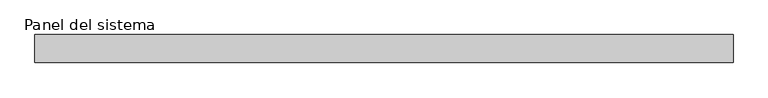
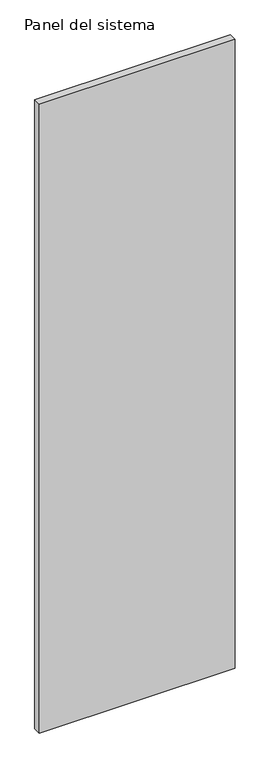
"""IFC4 building model written with IfcOpenShell, lengths in millimetres: plate geometry, Panel del sistema : HIANSA PANEL - PANELES DE CUBIERTA CON TAPAJUNTA - AGRO 3GR - Esp. 40mm."""

from ifc_helpers import new_model, si_unit, origin, origin_with_axes, place, context, project, spatial, polyline, outline, extrude, source, transform, mapped, element, save


def panel_del_sistema_d493ad30(model_context):
    return source(origin(), model_context, "Body", "SweptSolid", [
        extrude(outline(polyline([(500.0000002, 0.0), (-500.0000002, 0.0), (-500.0000002, 40.0), (500.0000002, 40.0), (500.0000002, 0.0)])), origin_with_axes(), (0.0, 0.0, 1.0), 3390.8509027),
    ])


if __name__ == "__main__":
    model = new_model("IFC4")
    model_context = context("Model", 3, world=origin())
    ifc_project = project(units=[si_unit("LENGTHUNIT", "METRE", prefix="MILLI")], contexts=[model_context])
    site = spatial("IfcSite", under=ifc_project)
    building = spatial("IfcBuilding", under=site)
    placement = place(None, origin())
    panel_del_sistema_shape = panel_del_sistema_d493ad30(model_context)
    element("IfcPlate", 1, ObjectType="Panel del sistema : HIANSA PANEL - PANELES DE CUBIERTA CON TAPAJUNTA - AGRO 3GR - Esp. 40mm", at=placement, inside=building, context=model_context, shape_type="MappedRepresentation", body=[
        mapped(panel_del_sistema_shape, transform((0.0, 0.0, 0.0), x_axis=(1.0, 0.0, 0.0), y_axis=(0.0, 1.0, 0.0), z_axis=(0.0, 0.0, 1.0))),
    ])
    save(model, "model.ifc")
